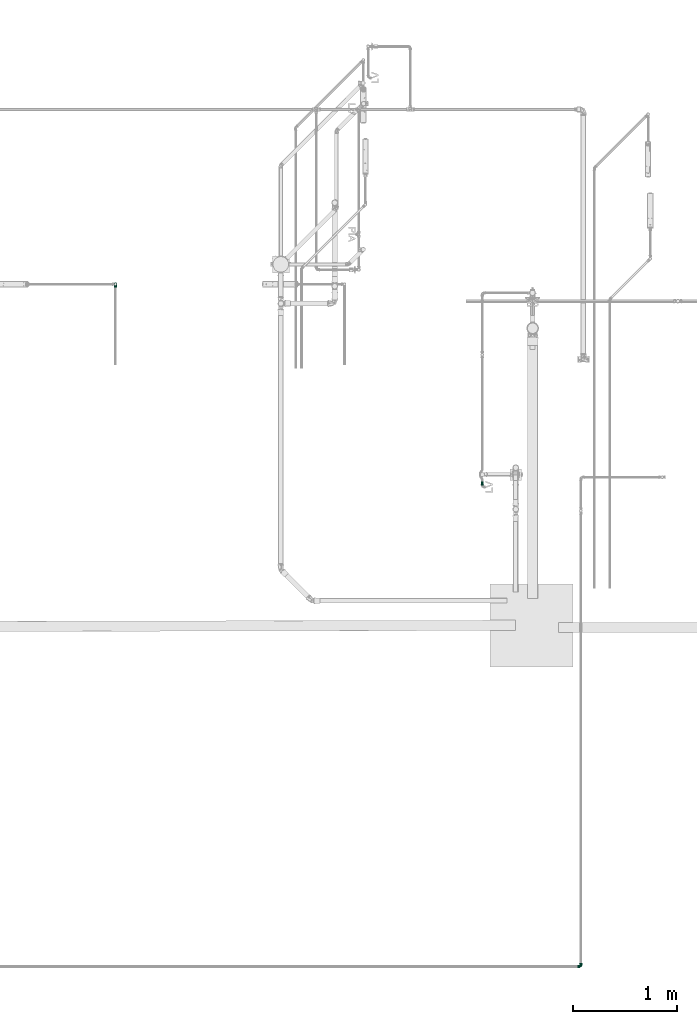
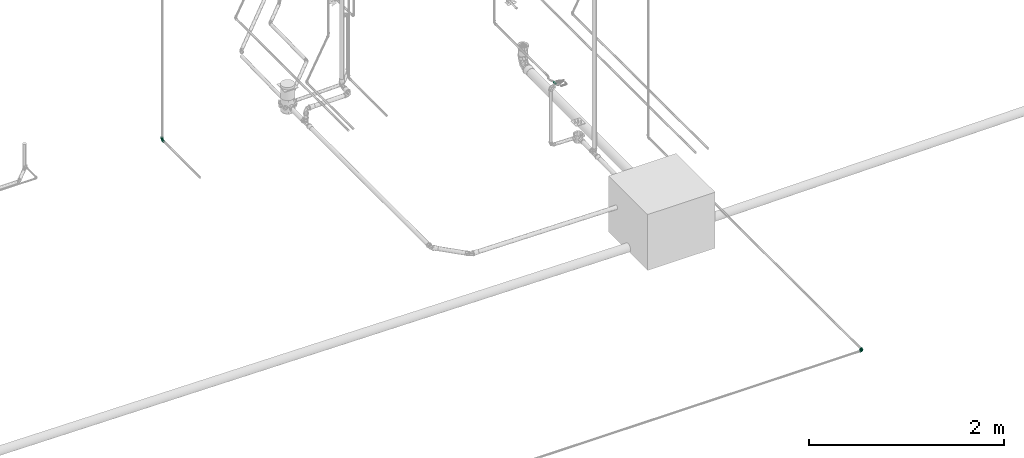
# One storey, part 317 of 589: 2 flow fittings, 1 flow segment.
"""IFC2X3 building model written with IfcOpenShell, lengths in millimetres."""

from ifc_helpers import new_model, entity, si_unit, converted_unit, derived_unit, direction, frame, origin, origin_2d_with_axis, place, context, subcontext, project, spatial, circle, extrude, faceted_brep, source, transform, mapped, material, type_object, type_shapes, element, save


model = new_model("IFC2X3")

# Units and contexts
model_context = context("Model", 3, precision=0.01, world=origin(), true_north=direction((6.123031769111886e-17, 1.0)))
body_context = subcontext(model_context, "Body", "Model", "MODEL_VIEW")
ifc_project = project(units=[si_unit("LENGTHUNIT", "METRE", prefix="MILLI"), si_unit("AREAUNIT", "SQUARE_METRE"), si_unit("VOLUMEUNIT", "CUBIC_METRE"), converted_unit("PLANEANGLEUNIT", "DEGREE", entity("IfcRatioMeasure", 0.017453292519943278), si_unit("PLANEANGLEUNIT", "RADIAN"), dimensions=[0, 0, 0, 0, 0, 0, 0]), si_unit("MASSUNIT", "GRAM", prefix="KILO"), derived_unit("MASSDENSITYUNIT", [(si_unit("MASSUNIT", "GRAM", prefix="KILO"), 1), (si_unit("LENGTHUNIT", "METRE"), -3)]), derived_unit("IONCONCENTRATIONUNIT", [(si_unit("MASSUNIT", "GRAM", prefix="KILO"), 1), (si_unit("LENGTHUNIT", "METRE"), -3)]), derived_unit("MOMENTOFINERTIAUNIT", [(si_unit("LENGTHUNIT", "METRE"), 4)]), si_unit("TIMEUNIT", "SECOND"), si_unit("FREQUENCYUNIT", "HERTZ"), si_unit("THERMODYNAMICTEMPERATUREUNIT", "DEGREE_CELSIUS"), derived_unit("THERMALTRANSMITTANCEUNIT", [(si_unit("MASSUNIT", "GRAM", prefix="KILO"), 1), (si_unit("THERMODYNAMICTEMPERATUREUNIT", "KELVIN"), -1), (si_unit("TIMEUNIT", "SECOND"), -3)]), derived_unit("THERMALCONDUCTANCEUNIT", [(si_unit("MASSUNIT", "GRAM", prefix="KILO"), 1), (si_unit("THERMODYNAMICTEMPERATUREUNIT", "KELVIN"), -1), (si_unit("TIMEUNIT", "SECOND"), -3), (si_unit("LENGTHUNIT", "METRE"), 1)]), derived_unit("VOLUMETRICFLOWRATEUNIT", [(si_unit("LENGTHUNIT", "METRE"), 3), (si_unit("TIMEUNIT", "SECOND"), -1)]), derived_unit("MASSFLOWRATEUNIT", [(si_unit("MASSUNIT", "GRAM", prefix="KILO"), 1), (si_unit("TIMEUNIT", "SECOND"), -1)]), derived_unit("ROTATIONALFREQUENCYUNIT", [(si_unit("TIMEUNIT", "SECOND"), -1)]), si_unit("ELECTRICCURRENTUNIT", "AMPERE"), si_unit("ELECTRICVOLTAGEUNIT", "VOLT"), si_unit("POWERUNIT", "WATT"), si_unit("FORCEUNIT", "NEWTON", prefix="KILO"), si_unit("ILLUMINANCEUNIT", "LUX"), si_unit("LUMINOUSFLUXUNIT", "LUMEN"), si_unit("LUMINOUSINTENSITYUNIT", "CANDELA"), derived_unit("USERDEFINED", [(si_unit("MASSUNIT", "GRAM", prefix="KILO"), -1), (si_unit("LENGTHUNIT", "METRE"), -2), (si_unit("TIMEUNIT", "SECOND"), 3), (si_unit("LUMINOUSFLUXUNIT", "LUMEN"), 1)]), derived_unit("USERDEFINED", [(si_unit("MASSUNIT", "GRAM", prefix="KILO"), 1), (si_unit("TIMEUNIT", "SECOND"), -3), (si_unit("LENGTHUNIT", "METRE"), 3), (si_unit("ELECTRICCURRENTUNIT", "AMPERE"), -2)]), derived_unit("SOUNDPOWERUNIT", [(si_unit("MASSUNIT", "GRAM", prefix="KILO"), 1), (si_unit("TIMEUNIT", "SECOND"), -3), (si_unit("LENGTHUNIT", "METRE"), 2)]), derived_unit("SOUNDPRESSUREUNIT", [(si_unit("MASSUNIT", "GRAM", prefix="KILO"), 1), (si_unit("LENGTHUNIT", "METRE"), -1), (si_unit("TIMEUNIT", "SECOND"), -2)]), derived_unit("LINEARVELOCITYUNIT", [(si_unit("LENGTHUNIT", "METRE"), 1), (si_unit("TIMEUNIT", "SECOND"), -1)]), si_unit("PRESSUREUNIT", "PASCAL"), derived_unit("USERDEFINED", [(si_unit("MASSUNIT", "GRAM", prefix="KILO"), 1), (si_unit("LENGTHUNIT", "METRE"), -2), (si_unit("TIMEUNIT", "SECOND"), -2)]), derived_unit("LINEARFORCEUNIT", [(si_unit("MASSUNIT", "GRAM", prefix="KILO"), 1), (si_unit("TIMEUNIT", "SECOND"), -2)]), derived_unit("PLANARFORCEUNIT", [(si_unit("MASSUNIT", "GRAM", prefix="KILO"), 1), (si_unit("LENGTHUNIT", "METRE"), -1), (si_unit("TIMEUNIT", "SECOND"), -2)]), derived_unit("SPECIFICHEATCAPACITYUNIT", [(si_unit("THERMODYNAMICTEMPERATUREUNIT", "KELVIN"), -1), (si_unit("LENGTHUNIT", "METRE"), 2), (si_unit("TIMEUNIT", "SECOND"), -2)]), derived_unit("HEATINGVALUEUNIT", [(si_unit("LENGTHUNIT", "METRE"), 2), (si_unit("TIMEUNIT", "SECOND"), -2)]), derived_unit("VAPORPERMEABILITYUNIT", [(si_unit("LENGTHUNIT", "METRE"), -1), (si_unit("TIMEUNIT", "SECOND"), 1)]), derived_unit("DYNAMICVISCOSITYUNIT", [(si_unit("MASSUNIT", "GRAM", prefix="KILO"), 1), (si_unit("TIMEUNIT", "SECOND"), -1), (si_unit("LENGTHUNIT", "METRE"), -1)]), derived_unit("THERMALEXPANSIONCOEFFICIENTUNIT", [(si_unit("THERMODYNAMICTEMPERATUREUNIT", "KELVIN"), -1)]), derived_unit("MODULUSOFELASTICITYUNIT", [(si_unit("MASSUNIT", "GRAM", prefix="KILO"), 1), (si_unit("LENGTHUNIT", "METRE"), -1), (si_unit("TIMEUNIT", "SECOND"), -2)]), derived_unit("ISOTHERMALMOISTURECAPACITYUNIT", [(si_unit("LENGTHUNIT", "METRE"), 3), (si_unit("MASSUNIT", "GRAM", prefix="KILO"), -1)]), derived_unit("MOISTUREDIFFUSIVITYUNIT", [(si_unit("TIMEUNIT", "SECOND"), -1), (si_unit("LENGTHUNIT", "METRE"), 2)])], contexts=[model_context])

# Site, building, storey
site_placement = place(None, origin())
site = spatial("IfcSite", under=ifc_project, at=site_placement, Name="Default", CompositionType="ELEMENT")
building_placement = place(site_placement, origin())
building = spatial("IfcBuilding", under=site, at=building_placement, CompositionType="ELEMENT")
storey_placement = place(building_placement, frame((0.0, 0.0, 100.0)))
storey = spatial("IfcBuildingStorey", under=building, at=storey_placement, Name="TÉRREO", CompositionType="ELEMENT", Elevation=100.0)

# Flow segment
pipe_segment_type = type_object("IfcPipeSegmentType", Name="Tipos de tubos:PVC Marrom Soldável", PredefinedType="NOTDEFINED")
flow_segment_placement = place(storey_placement, origin())
element("IfcFlowSegment", 1, at=flow_segment_placement, inside=storey, type_object=pipe_segment_type, Name="Tipos de tubos:PVC Marrom Soldável", ObjectType="Tipos de tubos:PVC Marrom Soldável", context=body_context, shape_type="SweptSolid", body=[
    extrude(circle(Radius=12.5, at=origin_2d_with_axis()), frame((1531.8423921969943, -9827.62160557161, 599.9999690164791), z_axis=(0.0, 1.0, 0.0), x_axis=(-1.0, 0.0, 0.0)), (0.0, 0.0, 1.0), 39.24668017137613),
])

# Flow fittings
ifc_material = material(Name="PVC Marrom")
pipe_fitting_type = type_object("IfcPipeFittingType", Name="PVC Marrom Soldável_Joelho 45°_90°_Rodrigo MEP:Joelho", PredefinedType="NOTDEFINED", material=ifc_material)
shared_shape = source(origin(), body_context, "Body", "Brep", [
    faceted_brep([(3.908167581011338, 15.40000000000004, 14.585479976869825), (13.076983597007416, 15.40000000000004, 7.549999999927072), (15.099999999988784, 15.40000000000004, 0.0), (13.076983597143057, 15.40000000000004, -7.55000000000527), (3.9081675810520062, 15.40000000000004, -14.585479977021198), (-3.9081675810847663, 15.40000000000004, -14.585479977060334), (-13.076983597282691, 15.40000000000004, -7.550000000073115), (-15.100000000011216, 15.40000000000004, 0.0), (-13.076983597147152, 15.40000000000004, 7.549999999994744), (-3.908167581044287, 15.40000000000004, 14.585479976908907), (-3.633819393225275, 14.30000000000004, 13.561598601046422), (-12.158996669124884, 14.30000000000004, 7.0199999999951), (-14.040000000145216, 14.30000000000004, 0.0), (-12.158996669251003, 14.30000000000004, -7.020000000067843), (-3.6338193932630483, 14.30000000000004, -13.561598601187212), (3.6338193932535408, 14.30000000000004, -13.561598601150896), (12.158996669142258, 14.30000000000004, -7.020000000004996), (14.039999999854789, 14.30000000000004, 0.0), (12.158996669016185, 14.30000000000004, 7.0199999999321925), (3.6338193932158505, 14.30000000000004, 13.561598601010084)], [[[0, 1, 2, 3, 4, 5, 6, 7, 8, 9]], [[10, 11, 12, 13, 14, 15, 16, 17, 18, 19]], [[3, 17, 16]], [[4, 3, 16, 15]], [[3, 2, 17]], [[15, 14, 5, 4]], [[6, 5, 14, 13]], [[7, 13, 12]], [[7, 6, 13]], [[8, 12, 11]], [[9, 8, 11, 10]], [[8, 7, 12]], [[10, 19, 0, 9]], [[1, 0, 19, 18]], [[2, 18, 17]], [[2, 1, 18]]]),
    faceted_brep([(-15.399999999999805, 3.908167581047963, 14.585479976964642), (-15.399999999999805, 13.076983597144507, 7.549999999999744), (-15.399999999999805, 15.100000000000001, 0.0), (-15.399999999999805, 13.076983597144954, -7.54999999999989), (-15.399999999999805, 3.9081675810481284, -14.58547997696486), (-15.399999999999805, -3.9081675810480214, -14.585479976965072), (-15.399999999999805, -13.0769835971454, -7.550000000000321), (-15.399999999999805, -15.099999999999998, 0.0), (-15.399999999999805, -13.076983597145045, 7.550000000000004), (-15.399999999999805, -3.908167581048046, 14.585479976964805), (-14.299999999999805, 12.158996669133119, 7.019999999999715), (-14.299999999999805, 3.6338193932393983, 13.561598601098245), (-14.299999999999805, -3.633819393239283, 13.56159860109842), (-14.299999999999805, -12.15899666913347, 7.020000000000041), (-14.299999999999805, -14.040000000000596, 0.0), (-14.299999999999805, -12.158996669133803, -7.020000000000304), (-14.299999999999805, -3.63381939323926, -13.561598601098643), (-14.299999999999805, 3.6338193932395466, -13.56159860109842), (-14.299999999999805, 12.158996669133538, -7.019999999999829), (-14.299999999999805, 14.03999999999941, 0.0)], [[[0, 1, 2, 3, 4, 5, 6, 7, 8, 9]], [[10, 11, 12, 13, 14, 15, 16, 17, 18, 19]], [[3, 2, 19, 18]], [[4, 3, 18, 17]], [[17, 16, 5, 4]], [[6, 5, 16, 15]], [[7, 6, 15, 14]], [[8, 7, 14, 13]], [[9, 8, 13, 12]], [[12, 11, 0, 9]], [[1, 0, 11, 10]], [[2, 1, 10, 19]]]),
    faceted_brep([(-33.4999999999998, -4.2705142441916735, -15.937776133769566), (-33.4999999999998, -6.250000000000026, -10.825317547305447), (-33.4999999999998, 0.0, -12.5), (-33.4999999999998, -14.289419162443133, -8.25000000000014), (-33.4999999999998, 4.270514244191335, -15.937776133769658), (-33.4999999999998, -12.074072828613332, -3.23523806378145), (-33.4999999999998, -16.499999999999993, 0.0), (-33.4999999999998, -12.074072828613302, 3.2352380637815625), (-33.4999999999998, -14.289419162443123, 8.249999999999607), (-33.4999999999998, -6.249999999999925, 10.825317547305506), (-33.4999999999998, -4.27051424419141, 15.937776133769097), (-33.4999999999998, 0.0, 12.5), (-33.4999999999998, 4.270514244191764, 15.937776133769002), (-33.4999999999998, 6.249999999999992, 10.825317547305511), (-33.4999999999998, 14.28941916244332, 8.249999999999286), (-33.4999999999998, 12.074072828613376, 3.2352380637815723), (-33.4999999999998, 16.500000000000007, 0.0), (-33.4999999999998, 12.074072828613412, -3.235238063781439), (-33.4999999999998, 14.289419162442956, -8.250000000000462), (-33.4999999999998, 6.250000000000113, -10.82531754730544), (-29.499999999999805, 16.5, 0.0), (-29.500000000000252, 12.639142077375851, 10.606700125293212), (-29.50000000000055, 2.8633833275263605, 16.249647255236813), (-29.50000000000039, -12.64180232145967, 10.603529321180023), (-29.499999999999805, -16.499999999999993, 0.0), (-29.500000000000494, -4.889209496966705, 13.426588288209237), (-29.49999999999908, -12.641802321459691, -10.603529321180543), (-29.49999999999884, -2.8674593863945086, -16.24892847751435), (-29.499999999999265, 12.639142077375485, -10.606700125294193), (-29.499999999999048, 4.885841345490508, -13.427814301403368), (-28.099999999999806, -15.099999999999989, 0.0), (-28.10000000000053, -11.56916454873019, 9.703835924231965), (-28.100000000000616, -4.474367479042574, 12.287362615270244), (-28.1000000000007, 2.6204295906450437, 14.870889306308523), (-28.100000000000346, 11.566730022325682, 9.706737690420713), (-28.09999999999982, 15.099999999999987, 0.0), (-28.099999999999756, 11.566730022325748, -9.706737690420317), (-28.09999999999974, 4.4712851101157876, -12.28848460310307), (-28.09999999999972, -2.6241598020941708, -14.870231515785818), (-28.09999999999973, -11.569164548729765, -9.703835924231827), (-15.399999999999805, 0.0, -12.5), (-15.399999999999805, -6.250000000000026, -10.825317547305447), (-15.399999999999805, -3.908167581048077, -14.585479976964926), (-15.399999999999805, 3.9081675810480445, -14.585479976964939), (-15.399999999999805, 6.250000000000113, -10.82531754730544), (-15.399999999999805, -13.076983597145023, -7.549999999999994), (-15.399999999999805, -12.074072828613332, -3.23523806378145), (-15.399999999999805, -15.099999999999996, 0.0), (-15.399999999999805, -12.074072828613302, 3.2352380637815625), (-15.399999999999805, -13.076983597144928, 7.550000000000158), (-15.399999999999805, -6.249999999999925, 10.825317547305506), (-15.399999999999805, -3.9081675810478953, 14.585479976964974), (-15.399999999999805, 0.0, 12.5), (-15.399999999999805, 3.9081675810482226, 14.58547997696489), (-15.399999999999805, 6.249999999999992, 10.825317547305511), (-15.399999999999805, 13.076983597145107, 7.549999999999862), (-15.399999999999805, 12.074072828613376, 3.2352380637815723), (-15.399999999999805, 15.100000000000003, 0.0), (-15.399999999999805, 12.074072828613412, -3.235238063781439), (-15.399999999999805, 13.076983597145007, -7.550000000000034)], [[[0, 1, 2]], [[1, 0, 3]], [[2, 4, 0]], [[3, 5, 1]], [[3, 6, 5]], [[5, 6, 7]], [[8, 7, 6]], [[7, 8, 9]], [[10, 9, 8]], [[9, 10, 11]], [[11, 10, 12]], [[12, 13, 11]], [[14, 13, 12]], [[13, 14, 15]], [[16, 15, 14]], [[16, 17, 15]], [[18, 17, 16]], [[19, 17, 18]], [[19, 18, 4]], [[4, 2, 19]], [[16, 14, 20]], [[14, 21, 20]], [[21, 14, 12]], [[21, 12, 22]], [[23, 10, 8]], [[24, 8, 6]], [[10, 23, 25, 22]], [[23, 8, 24]], [[10, 22, 12]], [[6, 3, 24]], [[3, 26, 24]], [[26, 3, 0]], [[26, 0, 27]], [[28, 4, 18]], [[20, 18, 16]], [[4, 28, 29, 27]], [[28, 18, 20]], [[4, 27, 0]], [[30, 31, 23, 24]], [[31, 32, 33, 22, 25, 23]], [[34, 35, 20, 21]], [[34, 21, 22, 33]], [[35, 36, 28, 20]], [[36, 37, 38, 27, 29, 28]], [[39, 30, 24, 26]], [[39, 26, 27, 38]], [[40, 41, 42]], [[42, 43, 40]], [[44, 40, 43]], [[45, 42, 41]], [[41, 46, 45]], [[46, 47, 45]], [[48, 47, 46]], [[47, 48, 49]], [[50, 49, 48]], [[49, 50, 51]], [[52, 51, 50]], [[53, 51, 52]], [[52, 54, 53]], [[53, 54, 55]], [[56, 55, 54]], [[55, 56, 57]], [[56, 58, 57]], [[59, 58, 44]], [[57, 58, 59]], [[43, 59, 44]], [[35, 34, 55]], [[35, 55, 57]], [[55, 34, 53]], [[34, 33, 53]], [[51, 33, 32, 31]], [[49, 31, 30]], [[31, 49, 51]], [[49, 30, 47]], [[33, 51, 53]], [[30, 39, 45]], [[30, 45, 47]], [[45, 39, 42]], [[39, 38, 42]], [[43, 38, 37, 36]], [[59, 36, 35]], [[36, 59, 43]], [[59, 35, 57]], [[38, 43, 42]], [[9, 11, 52, 50]], [[7, 9, 50, 48]], [[48, 46, 5, 7]], [[1, 5, 46, 41]], [[2, 1, 41, 40]], [[19, 2, 40, 44]], [[17, 19, 44, 58]], [[58, 56, 15, 17]], [[13, 15, 56, 54]], [[11, 13, 54, 52]]]),
    faceted_brep([(-14.299999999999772, -3.6338193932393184, -13.561598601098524), (-14.299999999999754, -12.158996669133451, -7.020000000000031), (-14.29999999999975, -14.039999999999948, 0.0), (-14.299999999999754, -12.158996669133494, 7.019999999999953), (-14.299999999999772, -3.6338193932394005, 13.561598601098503), (-14.299999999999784, 3.633819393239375, 13.561598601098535), (-14.299999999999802, 12.158996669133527, 7.0200000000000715), (-14.299999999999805, 14.04000000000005, 0.0), (-14.299999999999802, 12.158996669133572, -7.019999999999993), (-14.299999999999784, 3.63381939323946, -13.561598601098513), (3.633819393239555, 14.29999999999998, -13.561598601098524), (-3.633819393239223, 14.300000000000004, -13.561598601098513), (-12.158996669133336, 14.300000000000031, -7.019999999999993), (-14.039999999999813, 14.300000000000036, 0.0), (-12.158996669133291, 14.300000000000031, 7.0200000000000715), (-3.6338193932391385, 14.300000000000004, 13.561598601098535), (3.6338193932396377, 14.29999999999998, 13.561598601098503), (12.158996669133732, 14.299999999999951, 7.019999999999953), (14.040000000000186, 14.299999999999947, 0.0), (12.158996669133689, 14.299999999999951, -7.020000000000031), (-0.45476175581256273, 0.4547603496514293, 13.009299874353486), (-4.991226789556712, -9.102895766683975, 8.866254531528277), (-2.689013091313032, -7.336393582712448, 0.0), (3.7770734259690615, -3.6031967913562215, 0.0), (9.09033094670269, 4.905775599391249, 8.841582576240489), (10.243159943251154, 0.13000000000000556, 0.0), (-14.116152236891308, 14.116152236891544, 0.0), (-8.296884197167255, 8.29688403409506, 12.78130953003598), (-0.454761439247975, 0.45476027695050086, -13.009299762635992), (-8.296884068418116, 8.296883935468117, -12.78130960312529), (9.090330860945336, 4.90577564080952, -8.84158269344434), (-4.991226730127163, -9.10289574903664, -8.866254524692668)], [[[0, 1, 2, 3, 4, 5, 6, 7, 8, 9]], [[10, 11, 12, 13, 14, 15, 16, 17, 18, 19]], [[4, 20, 5]], [[21, 3, 22]], [[20, 4, 21]], [[21, 22, 23]], [[17, 24, 25]], [[26, 6, 14]], [[23, 20, 21]], [[26, 7, 6]], [[6, 5, 27]], [[3, 2, 22]], [[20, 23, 24]], [[25, 18, 17]], [[20, 27, 5]], [[16, 20, 24]], [[17, 16, 24]], [[6, 27, 14]], [[26, 14, 13]], [[21, 4, 3]], [[27, 15, 14]], [[27, 20, 15]], [[23, 25, 24]], [[15, 20, 16]], [[8, 7, 26]], [[28, 29, 11]], [[28, 10, 30]], [[8, 12, 29]], [[31, 22, 1]], [[31, 23, 22]], [[28, 9, 29]], [[19, 30, 10]], [[0, 28, 31]], [[1, 22, 2]], [[8, 26, 12]], [[12, 11, 29]], [[8, 29, 9]], [[31, 1, 0]], [[10, 28, 11]], [[30, 19, 25]], [[0, 9, 28]], [[19, 18, 25]], [[25, 23, 30]], [[23, 31, 28]], [[30, 23, 28]], [[12, 26, 13]]]),
    faceted_brep([(0.0, 15.40000000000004, -12.5), (-6.249999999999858, 15.40000000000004, -10.825317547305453), (-3.908167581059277, 15.40000000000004, -14.585479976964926), (3.9081675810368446, 15.40000000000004, -14.585479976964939), (6.250000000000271, 15.40000000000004, -10.82531754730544), (-13.076983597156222, 15.40000000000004, -7.549999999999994), (-12.07407282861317, 15.40000000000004, -3.235238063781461), (-15.100000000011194, 15.40000000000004, 0.0), (-12.074072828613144, 15.40000000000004, 3.2352380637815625), (-13.076983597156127, 15.40000000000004, 7.550000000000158), (-6.249999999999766, 15.40000000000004, 10.825317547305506), (-3.9081675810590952, 15.40000000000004, 14.585479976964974), (0.0, 15.40000000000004, 12.5), (3.9081675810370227, 15.40000000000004, 14.58547997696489), (6.250000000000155, 15.40000000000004, 10.825317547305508), (13.076983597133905, 15.40000000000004, 7.549999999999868), (12.074072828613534, 15.40000000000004, 3.2352380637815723), (15.099999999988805, 15.40000000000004, 0.0), (12.07407282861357, 15.40000000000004, -3.235238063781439), (13.07698359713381, 15.40000000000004, -7.550000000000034), (15.099999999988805, 28.10000000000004, 0.0), (11.56673002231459, 28.100000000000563, 9.706737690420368), (4.471285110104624, 28.10000000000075, 12.288484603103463), (-2.624159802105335, 28.100000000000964, 14.870231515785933), (-11.569164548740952, 28.10000000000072, 9.703835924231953), (-15.100000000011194, 28.10000000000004, 0.0), (-11.569164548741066, 28.10000000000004, -9.703835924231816), (-4.474367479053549, 28.10000000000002, -12.287362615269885), (2.6204295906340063, 28.099999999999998, -14.870889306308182), (11.566730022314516, 28.10000000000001, -9.706737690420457), (-12.639142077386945, 29.50000000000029, 10.606700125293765), (-16.50000000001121, 29.500000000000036, 0.0), (-2.8633833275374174, 29.50000000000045, 16.249647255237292), (12.641802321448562, 29.500000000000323, 10.603529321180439), (4.889209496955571, 29.500000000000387, 13.426588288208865), (16.499999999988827, 29.50000000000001, 0.0), (12.64180232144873, 29.500000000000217, -10.603529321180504), (2.867459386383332, 29.500000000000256, -16.24892847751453), (-12.639142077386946, 29.500000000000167, -10.606700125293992), (-4.885841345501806, 29.500000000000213, -13.427814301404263), (-4.270514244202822, 33.50000000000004, -15.937776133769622), (-6.249999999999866, 33.50000000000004, -10.825317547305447), (0.0, 33.50000000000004, -12.5), (-14.289419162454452, 33.50000000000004, -8.249999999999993), (4.270514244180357, 33.50000000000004, -15.937776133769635), (-12.074072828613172, 33.50000000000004, -3.23523806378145), (-16.50000000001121, 33.50000000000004, 0.0), (-12.074072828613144, 33.50000000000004, 3.2352380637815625), (-14.28941916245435, 33.50000000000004, 8.250000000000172), (-6.2499999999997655, 33.50000000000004, 10.825317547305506), (-4.270514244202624, 33.50000000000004, 15.937776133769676), (0.0, 33.50000000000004, 12.5), (4.270514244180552, 33.50000000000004, 15.937776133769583), (6.250000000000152, 33.50000000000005, 10.825317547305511), (14.289419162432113, 33.50000000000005, 8.249999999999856), (12.074072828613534, 33.50000000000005, 3.2352380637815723), (16.49999999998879, 33.50000000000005, 0.0), (12.07407282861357, 33.50000000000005, -3.235238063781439), (14.289419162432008, 33.50000000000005, -8.250000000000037), (6.250000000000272, 33.50000000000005, -10.82531754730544)], [[[0, 1, 2]], [[2, 3, 0]], [[4, 0, 3]], [[5, 2, 1]], [[1, 6, 5]], [[6, 7, 5]], [[8, 7, 6]], [[7, 8, 9]], [[10, 9, 8]], [[9, 10, 11]], [[12, 11, 10]], [[13, 11, 12]], [[12, 14, 13]], [[13, 14, 15]], [[16, 15, 14]], [[15, 16, 17]], [[16, 18, 17]], [[19, 18, 4]], [[17, 18, 19]], [[3, 19, 4]], [[20, 21, 15]], [[20, 15, 17]], [[15, 21, 13]], [[13, 21, 22, 23]], [[11, 23, 24]], [[9, 24, 25]], [[24, 9, 11]], [[9, 25, 7]], [[23, 11, 13]], [[25, 26, 5]], [[25, 5, 7]], [[5, 26, 2]], [[2, 26, 27, 28]], [[3, 28, 29]], [[19, 29, 20]], [[29, 19, 3]], [[19, 20, 17]], [[28, 3, 2]], [[24, 23, 30]], [[25, 24, 31]], [[31, 24, 30]], [[23, 32, 30]], [[21, 20, 33]], [[21, 33, 34]], [[22, 32, 23]], [[35, 33, 20]], [[32, 22, 34]], [[22, 21, 34]], [[20, 29, 36]], [[36, 35, 20]], [[37, 36, 29]], [[38, 39, 27]], [[29, 28, 37]], [[26, 25, 31]], [[38, 27, 26]], [[38, 26, 31]], [[28, 39, 37]], [[39, 28, 27]], [[40, 41, 42]], [[41, 40, 43]], [[42, 44, 40]], [[43, 45, 41]], [[43, 46, 45]], [[45, 46, 47]], [[48, 47, 46]], [[47, 48, 49]], [[50, 49, 48]], [[49, 50, 51]], [[51, 50, 52]], [[52, 53, 51]], [[54, 53, 52]], [[53, 54, 55]], [[56, 55, 54]], [[56, 57, 55]], [[58, 57, 56]], [[59, 57, 58]], [[59, 58, 44]], [[44, 42, 59]], [[56, 54, 35]], [[54, 33, 35]], [[33, 54, 52]], [[52, 32, 34, 33]], [[30, 50, 48]], [[31, 48, 46]], [[50, 30, 32]], [[30, 48, 31]], [[50, 32, 52]], [[46, 43, 31]], [[43, 38, 31]], [[38, 43, 40]], [[40, 37, 39, 38]], [[36, 44, 58]], [[35, 58, 56]], [[44, 36, 37]], [[36, 58, 35]], [[44, 37, 40]], [[49, 51, 12, 10]], [[47, 49, 10, 8]], [[8, 6, 45, 47]], [[41, 45, 6, 1]], [[42, 41, 1, 0]], [[59, 42, 0, 4]], [[57, 59, 4, 18]], [[18, 16, 55, 57]], [[53, 55, 16, 14]], [[51, 53, 14, 12]]]),
])
type_shapes(pipe_fitting_type, [shared_shape])
flow_fitting_1_placement = place(storey_placement, frame((-2004.8082895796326, -7887.861245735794, -37.354458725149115), z_axis=(-1.0, 0.0, -9.679762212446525e-06), x_axis=(9.679762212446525e-06, 0.0, -1.0)))
element("IfcFlowFitting", 2, at=flow_fitting_1_placement, inside=storey, type_object=pipe_fitting_type, material=ifc_material, Name="PVC Marrom Soldável_Joelho 45°_90°_Rodrigo MEP:Joelho", ObjectType="PVC Marrom Soldável_Joelho 45°_90°_Rodrigo MEP:Joelho", context=body_context, shape_type="MappedRepresentation", body=[
    mapped(shared_shape, transform((0.0, 0.0, 0.0), scale=1.0)),
])
flow_fitting_2_placement = place(storey_placement, frame((2482.5321732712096, -14466.3278745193, -250.0)))
element("IfcFlowFitting", 3, at=flow_fitting_2_placement, inside=storey, type_object=pipe_fitting_type, material=ifc_material, Name="PVC Marrom Soldável_Joelho 45°_90°_Rodrigo MEP:Joelho", ObjectType="PVC Marrom Soldável_Joelho 45°_90°_Rodrigo MEP:Joelho", context=body_context, shape_type="MappedRepresentation", body=[
    mapped(shared_shape, transform((0.0, 0.0, 0.0), scale=1.0)),
])

save(model, "model.ifc")
